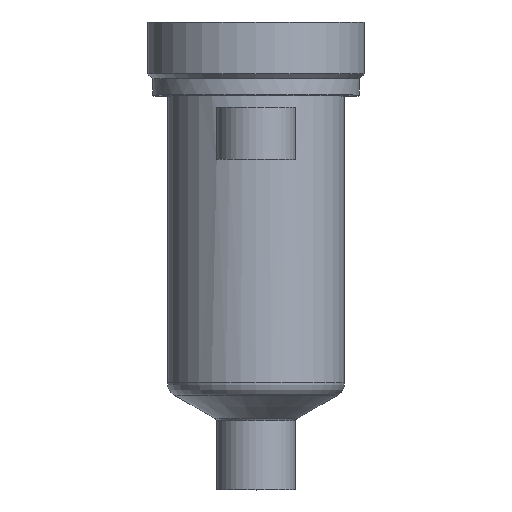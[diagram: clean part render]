
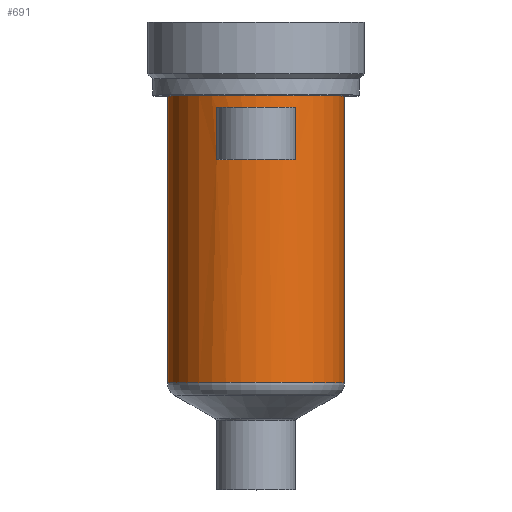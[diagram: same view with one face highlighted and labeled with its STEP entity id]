
A CAD part, top view. The second image highlights one B-rep face of the part: STEP entity #691.
In plain terms, the highlighted cylindrical face has radius 18 mm (diameter 36 mm), a partial arc.
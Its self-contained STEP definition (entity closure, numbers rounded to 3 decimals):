
#187=DIRECTION('',(0.,-1.,0.));
#188=VECTOR('',#187,58.206);
#189=CARTESIAN_POINT('',(18.,0.,0.));
#190=LINE('',#189,#188);
#191=CARTESIAN_POINT('',(0.,-58.206,0.));
#192=DIRECTION('',(0.,1.,0.));
#193=DIRECTION('',(-1.,0.,0.));
#194=AXIS2_PLACEMENT_3D('',#191,#192,#193);
#196=DIRECTION('',(0.,1.,0.));
#197=VECTOR('',#196,58.206);
#198=CARTESIAN_POINT('',(-18.,-58.206,0.));
#199=LINE('',#198,#197);
#200=CARTESIAN_POINT('',(0.,0.,0.));
#201=DIRECTION('',(0.,1.,0.));
#202=DIRECTION('',(-1.,0.,0.));
#203=AXIS2_PLACEMENT_3D('',#200,#201,#202);
#281=DIRECTION('',(0.,-1.,0.));
#282=VECTOR('',#281,10.5);
#283=CARTESIAN_POINT('',(-8.,-2.5,16.125));
#284=LINE('',#283,#282);
#285=CARTESIAN_POINT('',(0.,-13.,0.));
#286=DIRECTION('',(0.,1.,0.));
#287=DIRECTION('',(-0.444,0.,0.896));
#288=AXIS2_PLACEMENT_3D('',#285,#286,#287);
#311=CARTESIAN_POINT('',(0.,-2.5,0.));
#312=DIRECTION('',(0.,-1.,0.));
#313=DIRECTION('',(0.444,0.,0.896));
#314=AXIS2_PLACEMENT_3D('',#311,#312,#313);
#329=DIRECTION('',(0.,-1.,0.));
#330=VECTOR('',#329,10.5);
#331=CARTESIAN_POINT('',(8.,-2.5,16.125));
#332=LINE('',#331,#330);
#390=CARTESIAN_POINT('',(-18.,0.,0.));
#391=CARTESIAN_POINT('',(18.,0.,0.));
#392=VERTEX_POINT('',#390);
#393=VERTEX_POINT('',#391);
#402=CARTESIAN_POINT('',(-8.,-2.5,16.125));
#403=VERTEX_POINT('',#402);
#404=CARTESIAN_POINT('',(8.,-2.5,16.125));
#405=VERTEX_POINT('',#404);
#438=CARTESIAN_POINT('',(18.,-58.206,0.));
#439=VERTEX_POINT('',#438);
#448=CARTESIAN_POINT('',(-18.,-58.206,0.));
#449=VERTEX_POINT('',#448);
#450=CARTESIAN_POINT('',(-8.,-13.,16.125));
#451=CARTESIAN_POINT('',(8.,-13.,16.125));
#452=VERTEX_POINT('',#450);
#453=VERTEX_POINT('',#451);
#669=CARTESIAN_POINT('',(0.,16.4,0.));
#670=DIRECTION('',(0.,-1.,0.));
#671=DIRECTION('',(-1.,0.,0.));
#672=AXIS2_PLACEMENT_3D('',#669,#670,#671);
#673=CYLINDRICAL_SURFACE('',#672,18.);
#674=ORIENTED_EDGE('',*,*,#663,.T.);
#676=ORIENTED_EDGE('',*,*,#675,.F.);
#677=ORIENTED_EDGE('',*,*,#659,.T.);
#678=ORIENTED_EDGE('',*,*,#649,.T.);
#679=EDGE_LOOP('',(#674,#676,#677,#678));
#680=FACE_OUTER_BOUND('',#679,.F.);
#682=ORIENTED_EDGE('',*,*,#681,.T.);
#684=ORIENTED_EDGE('',*,*,#683,.T.);
#686=ORIENTED_EDGE('',*,*,#685,.F.);
#688=ORIENTED_EDGE('',*,*,#687,.T.);
#689=EDGE_LOOP('',(#682,#684,#686,#688));
#690=FACE_BOUND('',#689,.F.);
#691=ADVANCED_FACE('',(#680,#690),#673,.T.);
#195=CIRCLE('',#194,18.);
#204=CIRCLE('',#203,18.);
#289=CIRCLE('',#288,18.);
#315=CIRCLE('',#314,18.);
#649=EDGE_CURVE('',#392,#393,#204,.T.);
#659=EDGE_CURVE('',#449,#392,#199,.T.);
#663=EDGE_CURVE('',#393,#439,#190,.T.);
#675=EDGE_CURVE('',#449,#439,#195,.T.);
#681=EDGE_CURVE('',#403,#452,#284,.T.);
#683=EDGE_CURVE('',#452,#453,#289,.T.);
#685=EDGE_CURVE('',#405,#453,#332,.T.);
#687=EDGE_CURVE('',#405,#403,#315,.T.);
